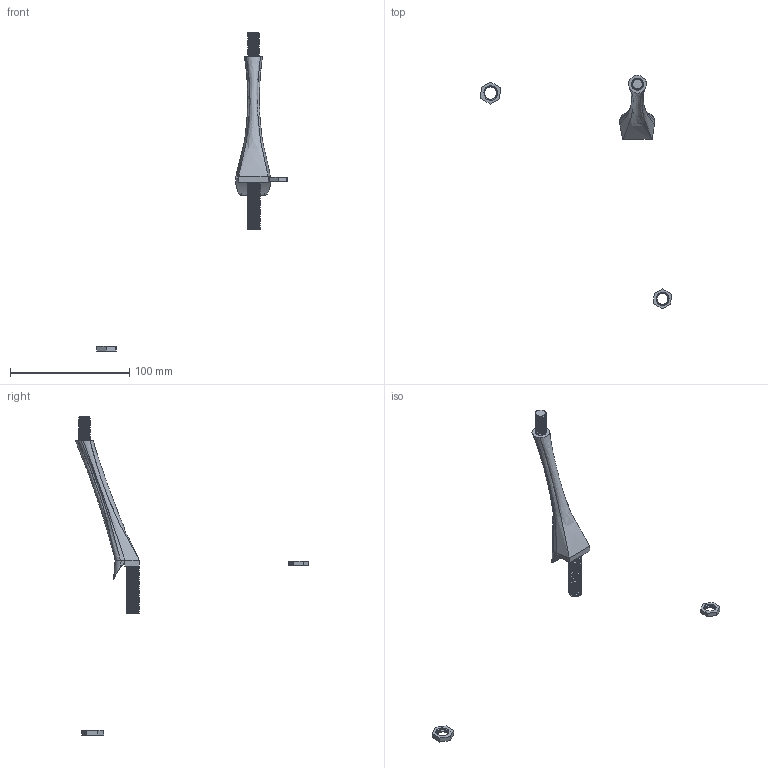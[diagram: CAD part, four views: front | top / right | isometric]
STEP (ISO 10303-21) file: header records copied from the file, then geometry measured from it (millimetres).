
FILE_DESCRIPTION(/* description */ (''),/* implementation_level */ '2;1');
FILE_NAME(/* name */ 'Bowelholderarm.step',/* time_stamp */ '2023-06-06T06:54:51-04:00',/* author */ (''),/* organization */ (''),/* preprocessor_version */ 'ST-DEVELOPER v19.2',/* originating_system */ 'Autodesk Translation Framework v12.6.0.85',/* authorisation */ '');
FILE_SCHEMA (('AUTOMOTIVE_DESIGN { 1 0 10303 214 3 1 1 }'));
Length unit declared in the file: millimetre
Products named in the file (1): holder'
Bounding box: 159.76 x 195.65 x 266.75 mm (x, y, z)
Volume: 26400.3 mm3; surface area: 11093 mm2
Topology: 3 solids, 3 shells, 163 faces, 463 edges, 306 vertices
Faces by surface type: cylinder 102, plane 42, bspline 19
Full cylindrical faces by diameter (mm): 8.141 x12, 9.141 x26, 9.246 x1, 9.85 x13, 10.274 x1, 10.85 x26, 11.004 x2, 12.226 x2
Entity records: 16698 total; most frequent: CARTESIAN_POINT 12955, ORIENTED_EDGE 922, DIRECTION 537, EDGE_CURVE 461, VERTEX_POINT 306, B_SPLINE_CURVE_WITH_KNOTS 254, AXIS2_PLACEMENT_3D 185, EDGE_LOOP 169
